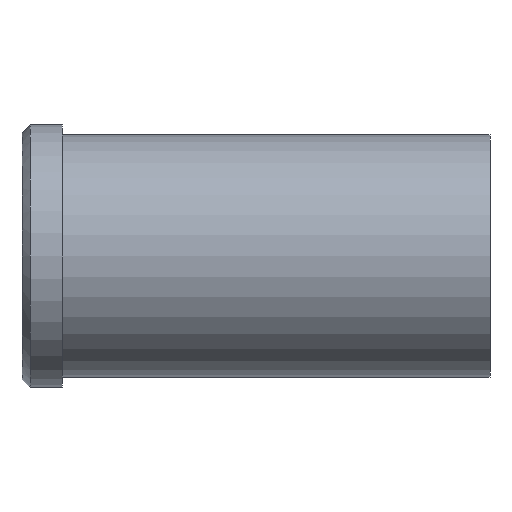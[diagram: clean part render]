
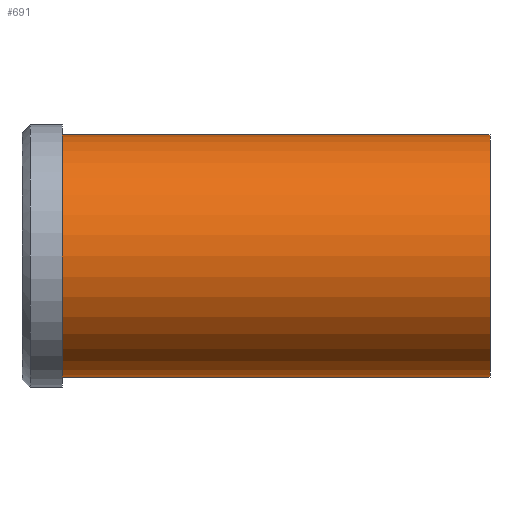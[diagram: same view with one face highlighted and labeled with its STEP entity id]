
A CAD part, front view. The second image highlights one B-rep face of the part: STEP entity #691.
In plain terms, the highlighted cylindrical face has radius 30 mm (diameter 60 mm), a partial arc.
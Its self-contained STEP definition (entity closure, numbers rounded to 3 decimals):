
#501=CARTESIAN_POINT('Vertex',(0.,0.,-30.)) ;
#506=CARTESIAN_POINT('Axis2P3D Location',(0.,0.,0.)) ;
#510=CARTESIAN_POINT('Vertex',(0.,-30.,0.)) ;
#513=CARTESIAN_POINT('Axis2P3D Location',(0.,0.,0.)) ;
#517=CARTESIAN_POINT('Vertex',(0.,0.,30.)) ;
#631=CARTESIAN_POINT('Line Origine',(106.,0.,30.)) ;
#635=CARTESIAN_POINT('Vertex',(106.,0.,30.)) ;
#649=CARTESIAN_POINT('Vertex',(106.,0.,-30.)) ;
#652=CARTESIAN_POINT('Line Origine',(106.,0.,-30.)) ;
#666=CARTESIAN_POINT('Axis2P3D Location',(106.,0.,0.)) ;
#671=CARTESIAN_POINT('Axis2P3D Location',(106.,0.,0.)) ;
#675=CARTESIAN_POINT('Vertex',(106.,-30.,0.)) ;
#678=CARTESIAN_POINT('Axis2P3D Location',(106.,0.,0.)) ;
#507=DIRECTION('Axis2P3D Direction',(1.,0.,-0.)) ;
#514=DIRECTION('Axis2P3D Direction',(1.,0.,-0.)) ;
#632=DIRECTION('Vector Direction',(-1.,0.,0.)) ;
#653=DIRECTION('Vector Direction',(-1.,0.,0.)) ;
#667=DIRECTION('Axis2P3D Direction',(-1.,-0.,-0.)) ;
#668=DIRECTION('Axis2P3D XDirection',(0.,0.,-1.)) ;
#672=DIRECTION('Axis2P3D Direction',(-1.,-0.,-0.)) ;
#679=DIRECTION('Axis2P3D Direction',(-1.,-0.,-0.)) ;
#508=AXIS2_PLACEMENT_3D('Circle Axis2P3D',#506,#507,$) ;
#515=AXIS2_PLACEMENT_3D('Circle Axis2P3D',#513,#514,$) ;
#669=AXIS2_PLACEMENT_3D('Cylinder Axis2P3D',#666,#667,#668) ;
#673=AXIS2_PLACEMENT_3D('Circle Axis2P3D',#671,#672,$) ;
#680=AXIS2_PLACEMENT_3D('Circle Axis2P3D',#678,#679,$) ;
#684=ORIENTED_EDGE('',*,*,#656,.T.) ;
#685=ORIENTED_EDGE('',*,*,#677,.F.) ;
#686=ORIENTED_EDGE('',*,*,#682,.F.) ;
#687=ORIENTED_EDGE('',*,*,#637,.T.) ;
#688=ORIENTED_EDGE('',*,*,#519,.T.) ;
#689=ORIENTED_EDGE('',*,*,#512,.T.) ;
#633=VECTOR('Line Direction',#632,1.) ;
#654=VECTOR('Line Direction',#653,1.) ;
#691=ADVANCED_FACE('353-50X116',(#690),#670,.T.) ;
#509=CIRCLE('generated circle',#508,30.) ;
#516=CIRCLE('generated circle',#515,30.) ;
#674=CIRCLE('generated circle',#673,30.) ;
#681=CIRCLE('generated circle',#680,30.) ;
#670=CYLINDRICAL_SURFACE('generated cylinder',#669,30.) ;
#512=EDGE_CURVE('',#511,#502,#509,.T.) ;
#519=EDGE_CURVE('',#518,#511,#516,.T.) ;
#637=EDGE_CURVE('',#636,#518,#634,.T.) ;
#656=EDGE_CURVE('',#502,#650,#655,.F.) ;
#677=EDGE_CURVE('',#676,#650,#674,.F.) ;
#682=EDGE_CURVE('',#636,#676,#681,.F.) ;
#683=EDGE_LOOP('',(#684,#685,#686,#687,#688,#689)) ;
#690=FACE_OUTER_BOUND('',#683,.T.) ;
#634=LINE('Line',#631,#633) ;
#655=LINE('Line',#652,#654) ;
#502=VERTEX_POINT('',#501) ;
#511=VERTEX_POINT('',#510) ;
#518=VERTEX_POINT('',#517) ;
#636=VERTEX_POINT('',#635) ;
#650=VERTEX_POINT('',#649) ;
#676=VERTEX_POINT('',#675) ;
